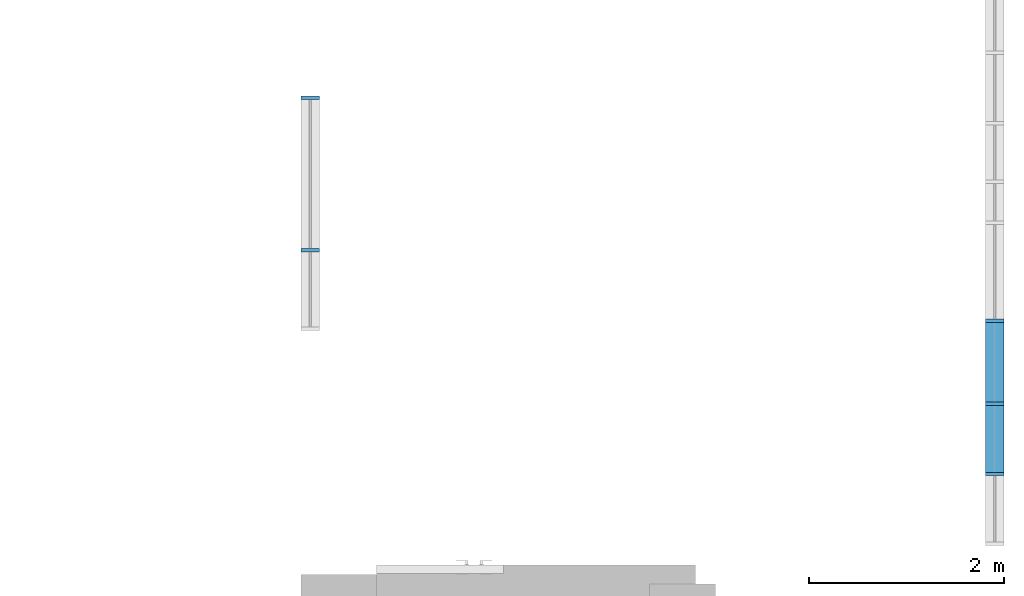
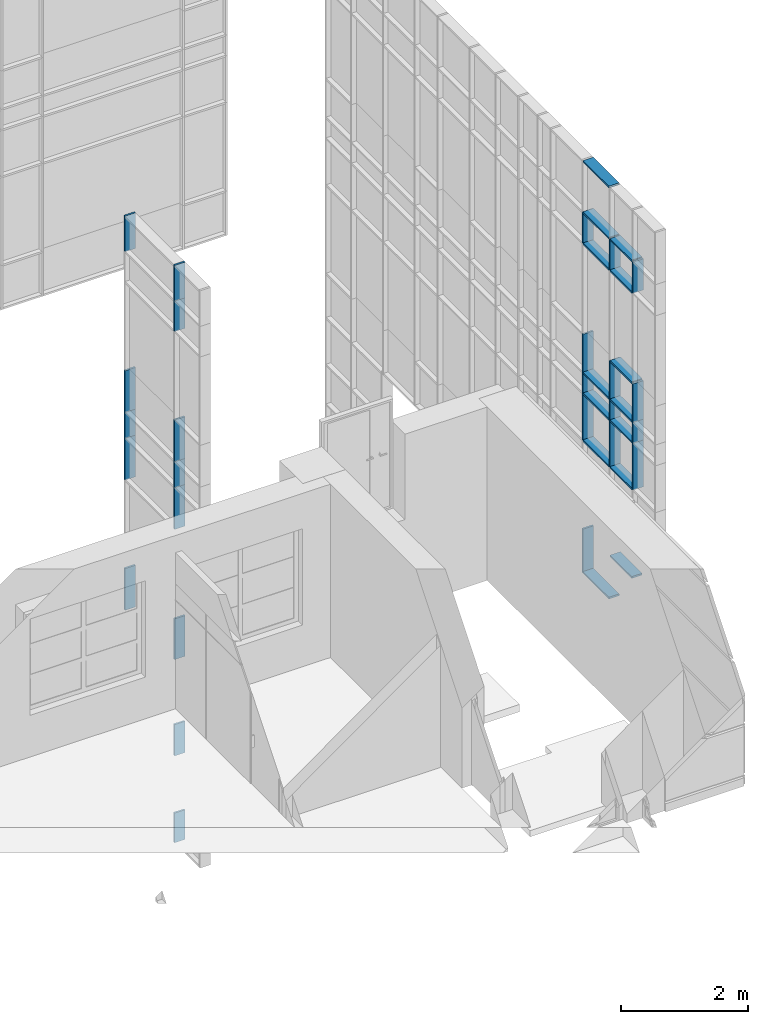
# One storey, part 13 of 73: 40 members, 2 elements without a shape of their own.
"""IFC2X3 building model written with IfcOpenShell, lengths in millimetres."""

from ifc_helpers import new_model, entity, si_unit, converted_unit, derived_unit, direction, frame, origin, origin_2d_with_axis, place, context, subcontext, project, spatial, rectangle, extrude, source, transform, mapped, material, type_object, type_shapes, element, aggregate, save


model = new_model("IFC2X3")

# Units and contexts
model_context = context("Model", 3, precision=0.01, world=origin(), true_north=direction((6.12303176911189e-17, 1.0)))
body_context = subcontext(model_context, "Body", "Model", "MODEL_VIEW")
ifc_project = project(units=[si_unit("LENGTHUNIT", "METRE", prefix="MILLI"), si_unit("AREAUNIT", "SQUARE_METRE"), si_unit("VOLUMEUNIT", "CUBIC_METRE"), converted_unit("PLANEANGLEUNIT", "DEGREE", entity("IfcRatioMeasure", 0.0174532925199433), si_unit("PLANEANGLEUNIT", "RADIAN"), dimensions=[0, 0, 0, 0, 0, 0, 0]), si_unit("MASSUNIT", "GRAM", prefix="KILO"), derived_unit("MASSDENSITYUNIT", [(si_unit("MASSUNIT", "GRAM", prefix="KILO"), 1), (si_unit("LENGTHUNIT", "METRE"), -3)]), si_unit("TIMEUNIT", "SECOND"), si_unit("FREQUENCYUNIT", "HERTZ"), si_unit("THERMODYNAMICTEMPERATUREUNIT", "DEGREE_CELSIUS"), derived_unit("THERMALTRANSMITTANCEUNIT", [(si_unit("MASSUNIT", "GRAM", prefix="KILO"), 1), (si_unit("THERMODYNAMICTEMPERATUREUNIT", "KELVIN"), -1), (si_unit("TIMEUNIT", "SECOND"), -3)]), derived_unit("VOLUMETRICFLOWRATEUNIT", [(si_unit("LENGTHUNIT", "METRE"), 3), (si_unit("TIMEUNIT", "SECOND"), -1)]), si_unit("ELECTRICCURRENTUNIT", "AMPERE"), si_unit("ELECTRICVOLTAGEUNIT", "VOLT"), si_unit("POWERUNIT", "WATT"), si_unit("FORCEUNIT", "NEWTON", prefix="KILO"), si_unit("ILLUMINANCEUNIT", "LUX"), si_unit("LUMINOUSFLUXUNIT", "LUMEN"), si_unit("LUMINOUSINTENSITYUNIT", "CANDELA"), derived_unit("USERDEFINED", [(si_unit("MASSUNIT", "GRAM", prefix="KILO"), -1), (si_unit("LENGTHUNIT", "METRE"), -2), (si_unit("TIMEUNIT", "SECOND"), 3), (si_unit("LUMINOUSFLUXUNIT", "LUMEN"), 1)]), derived_unit("LINEARVELOCITYUNIT", [(si_unit("LENGTHUNIT", "METRE"), 1), (si_unit("TIMEUNIT", "SECOND"), -1)]), si_unit("PRESSUREUNIT", "PASCAL"), derived_unit("USERDEFINED", [(si_unit("LENGTHUNIT", "METRE"), -2), (si_unit("MASSUNIT", "GRAM", prefix="KILO"), 1), (si_unit("TIMEUNIT", "SECOND"), -2)])], contexts=[model_context])

# Site, building, storey
site_placement = place(None, frame((-151.875543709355, 2715.0, 0.0)))
site = spatial("IfcSite", under=ifc_project, at=site_placement, Name="Surface", CompositionType="ELEMENT")
building_placement = place(site_placement, origin())
building = spatial("IfcBuilding", under=site, at=building_placement, CompositionType="ELEMENT")
storey_placement = place(building_placement, frame((0.0, 0.0, 6730.43000000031)))
storey = spatial("IfcBuildingStorey", under=building, at=storey_placement, Name="3 korrus", CompositionType="ELEMENT", Elevation=6730.43000000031)

# Curtain wall, members
curtain_wall_type = type_object("IfcCurtainWallType", Name="Curtain Wall:Klaasfassaad", PredefinedType="NOTDEFINED")
curtain_wall_1_placement = place(storey_placement, frame((0.0, 0.0, -6730.43000000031)))
curtain_wall_1 = element("IfcCurtainWall", 1, at=curtain_wall_1_placement, inside=storey, type_object=curtain_wall_type, Name="Curtain Wall:Klaasfassaad", ObjectType="Curtain Wall:Klaasfassaad")
ifc_material = material(Name="Steel/Aluminium")
member_type_1 = type_object("IfcMemberType", Name="35 x 190mm", PredefinedType="MEMBER")
shared_shape_1 = source(origin(), body_context, "Body", "SweptSolid", [
    extrude(rectangle(XDim=190.0, YDim=35.0, at=origin_2d_with_axis()), frame((-17.5, 0.0, -815.0), z_axis=(0.0, 0.0, 1.0), x_axis=(0.0, -1.0, 0.0)), (0.0, 0.0, 1.0), 814.999999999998),
])
type_shapes(member_type_1, [shared_shape_1])
member_1_placement = place(storey_placement, frame((38701.6162681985, 14878.0004565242, -2856.00226032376), z_axis=(0.0, -1.0, 0.0), x_axis=(0.0, 0.0, -1.0)))
member_1 = element("IfcMember", 2, at=member_1_placement, type_object=member_type_1, material=ifc_material, Name="Rectangular Mullion:35 x 190mm", ObjectType="35 x 190mm", context=body_context, shape_type="MappedRepresentation", body=[
    mapped(shared_shape_1, transform((0.0, 0.0, 0.0), scale=1.0)),
])
member_type_2 = type_object("IfcMemberType", Name="35 x 190mm", PredefinedType="MEMBER")
shared_shape_2 = source(origin(), body_context, "Body", "SweptSolid", [
    extrude(rectangle(XDim=190.0, YDim=35.0, at=origin_2d_with_axis()), frame((-17.5, 0.0, -815.0), z_axis=(0.0, 0.0, 1.0), x_axis=(0.0, -1.0, 0.0)), (0.0, 0.0, 1.0), 814.999999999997),
])
type_shapes(member_type_2, [shared_shape_2])
member_2_placement = place(storey_placement, frame((38701.6162681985, 15693.0004565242, 5074.47692901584), z_axis=(0.0, 1.0, 0.0), x_axis=(0.0, 0.0, 1.0)))
member_2 = element("IfcMember", 3, at=member_2_placement, type_object=member_type_2, material=ifc_material, Name="Rectangular Mullion:35 x 190mm", ObjectType="35 x 190mm", context=body_context, shape_type="MappedRepresentation", body=[
    mapped(shared_shape_2, transform((0.0, 0.0, 0.0), scale=1.0)),
])
member_type_3 = type_object("IfcMemberType", Name="35 x 190mm", PredefinedType="MEMBER")
shared_shape_3 = source(origin(), body_context, "Body", "SweptSolid", [
    extrude(rectangle(XDim=190.0, YDim=35.0, at=origin_2d_with_axis()), frame((0.0, 0.0, -850.159729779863), z_axis=(0.0, 0.0, 1.0), x_axis=(0.0, -1.0, 0.0)), (0.0, 0.0, 1.0), 850.159729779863),
])
type_shapes(member_type_3, [shared_shape_3])
member_3_placement = place(storey_placement, frame((38701.6162681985, 15710.5004565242, -2856.00226032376), z_axis=(0.0, 0.0, -1.0), x_axis=(0.0, 1.0, 0.0)))
member_3 = element("IfcMember", 4, at=member_3_placement, type_object=member_type_3, material=ifc_material, Name="Rectangular Mullion:35 x 190mm", ObjectType="35 x 190mm", context=body_context, shape_type="MappedRepresentation", body=[
    mapped(shared_shape_3, transform((0.0, 0.0, 0.0), scale=1.0)),
])
member_type_4 = type_object("IfcMemberType", Name="35 x 190mm", PredefinedType="MEMBER")
shared_shape_4 = source(origin(), body_context, "Body", "SweptSolid", [
    extrude(rectangle(XDim=190.0, YDim=35.0, at=origin_2d_with_axis()), frame((0.0, 0.0, -685.0), z_axis=(0.0, 0.0, 1.0), x_axis=(0.0, -1.0, 0.0)), (0.0, 0.0, 1.0), 684.999999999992),
])
type_shapes(member_type_4, [shared_shape_4])
member_4_placement = place(storey_placement, frame((38701.6162681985, 14843.0004565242, 4074.47692901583), z_axis=(0.0, 1.0, 0.0), x_axis=(0.0, 0.0, 1.0)))
member_4 = element("IfcMember", 5, at=member_4_placement, type_object=member_type_4, material=ifc_material, Name="Rectangular Mullion:35 x 190mm", ObjectType="35 x 190mm", context=body_context, shape_type="MappedRepresentation", body=[
    mapped(shared_shape_4, transform((0.0, 0.0, 0.0), scale=1.0)),
])
member_type_5 = type_object("IfcMemberType", Name="35 x 190mm", PredefinedType="MEMBER")
shared_shape_5 = source(origin(), body_context, "Body", "SweptSolid", [
    extrude(rectangle(XDim=190.0, YDim=35.0, at=origin_2d_with_axis()), frame((0.0, 0.0, -815.0), z_axis=(0.0, 0.0, 1.0), x_axis=(0.0, -1.0, 0.0)), (0.0, 0.0, 1.0), 814.999999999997),
])
type_shapes(member_type_5, [shared_shape_5])
member_5_placement = place(storey_placement, frame((38701.6162681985, 15693.0004565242, 4074.47692901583), z_axis=(0.0, 1.0, 0.0), x_axis=(0.0, 0.0, 1.0)))
member_5 = element("IfcMember", 6, at=member_5_placement, type_object=member_type_5, material=ifc_material, Name="Rectangular Mullion:35 x 190mm", ObjectType="35 x 190mm", context=body_context, shape_type="MappedRepresentation", body=[
    mapped(shared_shape_5, transform((0.0, 0.0, 0.0), scale=1.0)),
])
member_type_6 = type_object("IfcMemberType", Name="35 x 190mm", PredefinedType="MEMBER")
shared_shape_6 = source(origin(), body_context, "Body", "SweptSolid", [
    extrude(rectangle(XDim=190.0, YDim=35.0, at=origin_2d_with_axis()), frame((0.0, 0.0, -685.0), z_axis=(0.0, 0.0, 1.0), x_axis=(0.0, -1.0, 0.0)), (0.0, 0.0, 1.0), 684.999999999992),
])
type_shapes(member_type_6, [shared_shape_6])
member_6_placement = place(storey_placement, frame((38701.6162681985, 14843.0004565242, 3474.47692901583), z_axis=(0.0, 1.0, 0.0), x_axis=(0.0, 0.0, 1.0)))
member_6 = element("IfcMember", 7, at=member_6_placement, type_object=member_type_6, material=ifc_material, Name="Rectangular Mullion:35 x 190mm", ObjectType="35 x 190mm", context=body_context, shape_type="MappedRepresentation", body=[
    mapped(shared_shape_6, transform((0.0, 0.0, 0.0), scale=1.0)),
])
member_type_7 = type_object("IfcMemberType", Name="35 x 190mm", PredefinedType="MEMBER")
shared_shape_7 = source(origin(), body_context, "Body", "SweptSolid", [
    extrude(rectangle(XDim=190.0, YDim=35.0, at=origin_2d_with_axis()), frame((0.0, 0.0, -815.0), z_axis=(0.0, 0.0, 1.0), x_axis=(0.0, -1.0, 0.0)), (0.0, 0.0, 1.0), 814.999999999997),
])
type_shapes(member_type_7, [shared_shape_7])
member_7_placement = place(storey_placement, frame((38701.6162681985, 15693.0004565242, 3474.47692901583), z_axis=(0.0, 1.0, 0.0), x_axis=(0.0, 0.0, 1.0)))
member_7 = element("IfcMember", 8, at=member_7_placement, type_object=member_type_7, material=ifc_material, Name="Rectangular Mullion:35 x 190mm", ObjectType="35 x 190mm", context=body_context, shape_type="MappedRepresentation", body=[
    mapped(shared_shape_7, transform((0.0, 0.0, 0.0), scale=1.0)),
])
member_type_8 = type_object("IfcMemberType", Name="35 x 190mm", PredefinedType="MEMBER")
shared_shape_8 = source(origin(), body_context, "Body", "SweptSolid", [
    extrude(rectangle(XDim=190.0, YDim=35.0, at=origin_2d_with_axis()), frame((0.0, 0.0, -685.0), z_axis=(0.0, 0.0, 1.0), x_axis=(0.0, -1.0, 0.0)), (0.0, 0.0, 1.0), 684.999999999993),
])
type_shapes(member_type_8, [shared_shape_8])
member_8_placement = place(storey_placement, frame((38701.6162681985, 14843.0004565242, 994.476929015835), z_axis=(0.0, 1.0, 0.0), x_axis=(0.0, 0.0, 1.0)))
member_8 = element("IfcMember", 9, at=member_8_placement, type_object=member_type_8, material=ifc_material, Name="Rectangular Mullion:35 x 190mm", ObjectType="35 x 190mm", context=body_context, shape_type="MappedRepresentation", body=[
    mapped(shared_shape_8, transform((0.0, 0.0, 0.0), scale=1.0)),
])
member_type_9 = type_object("IfcMemberType", Name="35 x 190mm", PredefinedType="MEMBER")
shared_shape_9 = source(origin(), body_context, "Body", "SweptSolid", [
    extrude(rectangle(XDim=190.0, YDim=35.0, at=origin_2d_with_axis()), frame((0.0, 0.0, -815.0), z_axis=(0.0, 0.0, 1.0), x_axis=(0.0, -1.0, 0.0)), (0.0, 0.0, 1.0), 814.999999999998),
])
type_shapes(member_type_9, [shared_shape_9])
member_9_placement = place(storey_placement, frame((38701.6162681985, 15693.0004565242, 994.476929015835), z_axis=(0.0, 1.0, 0.0), x_axis=(0.0, 0.0, 1.0)))
member_9 = element("IfcMember", 10, at=member_9_placement, type_object=member_type_9, material=ifc_material, Name="Rectangular Mullion:35 x 190mm", ObjectType="35 x 190mm", context=body_context, shape_type="MappedRepresentation", body=[
    mapped(shared_shape_9, transform((0.0, 0.0, 0.0), scale=1.0)),
])
member_type_10 = type_object("IfcMemberType", Name="35 x 190mm", PredefinedType="MEMBER")
shared_shape_10 = source(origin(), body_context, "Body", "SweptSolid", [
    extrude(rectangle(XDim=190.0, YDim=35.0, at=origin_2d_with_axis()), frame((0.0, 0.0, -685.0), z_axis=(0.0, 0.0, 1.0), x_axis=(0.0, -1.0, 0.0)), (0.0, 0.0, 1.0), 684.999999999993),
])
type_shapes(member_type_10, [shared_shape_10])
member_10_placement = place(storey_placement, frame((38701.6162681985, 14843.0004565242, 594.476929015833), z_axis=(0.0, 1.0, 0.0), x_axis=(0.0, 0.0, 1.0)))
member_10 = element("IfcMember", 11, at=member_10_placement, type_object=member_type_10, material=ifc_material, Name="Rectangular Mullion:35 x 190mm", ObjectType="35 x 190mm", context=body_context, shape_type="MappedRepresentation", body=[
    mapped(shared_shape_10, transform((0.0, 0.0, 0.0), scale=1.0)),
])
member_type_11 = type_object("IfcMemberType", Name="35 x 190mm", PredefinedType="MEMBER")
shared_shape_11 = source(origin(), body_context, "Body", "SweptSolid", [
    extrude(rectangle(XDim=190.0, YDim=35.0, at=origin_2d_with_axis()), frame((0.0, 0.0, -815.0), z_axis=(0.0, 0.0, 1.0), x_axis=(0.0, -1.0, 0.0)), (0.0, 0.0, 1.0), 814.999999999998),
])
type_shapes(member_type_11, [shared_shape_11])
member_11_placement = place(storey_placement, frame((38701.6162681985, 15693.0004565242, 594.476929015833), z_axis=(0.0, 1.0, 0.0), x_axis=(0.0, 0.0, 1.0)))
member_11 = element("IfcMember", 12, at=member_11_placement, type_object=member_type_11, material=ifc_material, Name="Rectangular Mullion:35 x 190mm", ObjectType="35 x 190mm", context=body_context, shape_type="MappedRepresentation", body=[
    mapped(shared_shape_11, transform((0.0, 0.0, 0.0), scale=1.0)),
])
member_type_12 = type_object("IfcMemberType", Name="35 x 190mm", PredefinedType="MEMBER")
shared_shape_12 = source(origin(), body_context, "Body", "SweptSolid", [
    extrude(rectangle(XDim=190.0, YDim=35.0, at=origin_2d_with_axis()), frame((0.0, 0.0, -685.0), z_axis=(0.0, 0.0, 1.0), x_axis=(0.0, -1.0, 0.0)), (0.0, 0.0, 1.0), 684.999999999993),
])
type_shapes(member_type_12, [shared_shape_12])
member_12_placement = place(storey_placement, frame((38701.6162681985, 14843.0004565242, -305.523070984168), z_axis=(0.0, 1.0, 0.0), x_axis=(0.0, 0.0, 1.0)))
member_12 = element("IfcMember", 13, at=member_12_placement, type_object=member_type_12, material=ifc_material, Name="Rectangular Mullion:35 x 190mm", ObjectType="35 x 190mm", context=body_context, shape_type="MappedRepresentation", body=[
    mapped(shared_shape_12, transform((0.0, 0.0, 0.0), scale=1.0)),
])
member_type_13 = type_object("IfcMemberType", Name="35 x 190mm", PredefinedType="MEMBER")
shared_shape_13 = source(origin(), body_context, "Body", "SweptSolid", [
    extrude(rectangle(XDim=190.0, YDim=35.0, at=origin_2d_with_axis()), frame((0.0, 0.0, -815.0), z_axis=(0.0, 0.0, 1.0), x_axis=(0.0, -1.0, 0.0)), (0.0, 0.0, 1.0), 814.999999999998),
])
type_shapes(member_type_13, [shared_shape_13])
member_13_placement = place(storey_placement, frame((38701.6162681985, 15693.0004565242, -305.523070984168), z_axis=(0.0, 1.0, 0.0), x_axis=(0.0, 0.0, 1.0)))
member_13 = element("IfcMember", 14, at=member_13_placement, type_object=member_type_13, material=ifc_material, Name="Rectangular Mullion:35 x 190mm", ObjectType="35 x 190mm", context=body_context, shape_type="MappedRepresentation", body=[
    mapped(shared_shape_13, transform((0.0, 0.0, 0.0), scale=1.0)),
])
member_type_14 = type_object("IfcMemberType", Name="35 x 190mm", PredefinedType="MEMBER")
shared_shape_14 = source(origin(), body_context, "Body", "SweptSolid", [
    extrude(rectangle(XDim=190.0, YDim=35.0, at=origin_2d_with_axis()), frame((0.0, 0.0, -600.0), z_axis=(0.0, 0.0, 1.0), x_axis=(0.0, -1.0, 0.0)), (0.0, 0.0, 1.0), 599.999999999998),
])
type_shapes(member_type_14, [shared_shape_14])
member_14_placement = place(storey_placement, frame((38701.6162681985, 14140.5004565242, 3474.47692901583), z_axis=(0.0, 0.0, -1.0), x_axis=(0.0, 1.0, 0.0)))
member_14 = element("IfcMember", 15, at=member_14_placement, type_object=member_type_14, material=ifc_material, Name="Rectangular Mullion:35 x 190mm", ObjectType="35 x 190mm", context=body_context, shape_type="MappedRepresentation", body=[
    mapped(shared_shape_14, transform((0.0, 0.0, 0.0), scale=1.0)),
])
member_15_placement = place(storey_placement, frame((38701.6162681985, 14860.5004565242, 3474.47692901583), z_axis=(0.0, 0.0, -1.0), x_axis=(0.0, 1.0, 0.0)))
member_15 = element("IfcMember", 16, at=member_15_placement, type_object=member_type_14, material=ifc_material, Name="Rectangular Mullion:35 x 190mm", ObjectType="35 x 190mm", context=body_context, shape_type="MappedRepresentation", body=[
    mapped(shared_shape_14, transform((0.0, 0.0, 0.0), scale=1.0)),
])
member_16_placement = place(storey_placement, frame((38701.6162681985, 15710.5004565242, 3474.47692901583), z_axis=(0.0, 0.0, -1.0), x_axis=(0.0, 1.0, 0.0)))
member_16 = element("IfcMember", 17, at=member_16_placement, type_object=member_type_14, material=ifc_material, Name="Rectangular Mullion:35 x 190mm", ObjectType="35 x 190mm", context=body_context, shape_type="MappedRepresentation", body=[
    mapped(shared_shape_14, transform((0.0, 0.0, 0.0), scale=1.0)),
])
member_type_15 = type_object("IfcMemberType", Name="35 x 190mm", PredefinedType="MEMBER")
shared_shape_15 = source(origin(), body_context, "Body", "SweptSolid", [
    extrude(rectangle(XDim=190.0, YDim=35.0, at=origin_2d_with_axis()), frame((0.0, 0.0, -740.0), z_axis=(0.0, 0.0, 1.0), x_axis=(0.0, -1.0, 0.0)), (0.0, 0.0, 1.0), 740.000000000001),
])
type_shapes(member_type_15, [shared_shape_15])
member_17_placement = place(storey_placement, frame((38701.6162681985, 14140.5004565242, 994.476929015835), z_axis=(0.0, 0.0, -1.0), x_axis=(0.0, 1.0, 0.0)))
member_17 = element("IfcMember", 18, at=member_17_placement, type_object=member_type_15, material=ifc_material, Name="Rectangular Mullion:35 x 190mm", ObjectType="35 x 190mm", context=body_context, shape_type="MappedRepresentation", body=[
    mapped(shared_shape_15, transform((0.0, 0.0, 0.0), scale=1.0)),
])
member_18_placement = place(storey_placement, frame((38701.6162681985, 14860.5004565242, 994.476929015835), z_axis=(0.0, 0.0, -1.0), x_axis=(0.0, 1.0, 0.0)))
member_18 = element("IfcMember", 19, at=member_18_placement, type_object=member_type_15, material=ifc_material, Name="Rectangular Mullion:35 x 190mm", ObjectType="35 x 190mm", context=body_context, shape_type="MappedRepresentation", body=[
    mapped(shared_shape_15, transform((0.0, 0.0, 0.0), scale=1.0)),
])
member_19_placement = place(storey_placement, frame((38701.6162681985, 15710.5004565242, 994.476929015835), z_axis=(0.0, 0.0, -1.0), x_axis=(0.0, 1.0, 0.0)))
member_19 = element("IfcMember", 20, at=member_19_placement, type_object=member_type_15, material=ifc_material, Name="Rectangular Mullion:35 x 190mm", ObjectType="35 x 190mm", context=body_context, shape_type="MappedRepresentation", body=[
    mapped(shared_shape_15, transform((0.0, 0.0, 0.0), scale=1.0)),
])
member_type_16 = type_object("IfcMemberType", Name="35 x 190mm", PredefinedType="MEMBER")
shared_shape_16 = source(origin(), body_context, "Body", "SweptSolid", [
    extrude(rectangle(XDim=190.0, YDim=35.0, at=origin_2d_with_axis()), frame((0.0, 0.0, -400.0), z_axis=(0.0, 0.0, 1.0), x_axis=(0.0, -1.0, 0.0)), (0.0, 0.0, 1.0), 400.0),
])
type_shapes(member_type_16, [shared_shape_16])
member_20_placement = place(storey_placement, frame((38701.6162681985, 14140.5004565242, 594.476929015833), z_axis=(0.0, 0.0, -1.0), x_axis=(0.0, 1.0, 0.0)))
member_20 = element("IfcMember", 21, at=member_20_placement, type_object=member_type_16, material=ifc_material, Name="Rectangular Mullion:35 x 190mm", ObjectType="35 x 190mm", context=body_context, shape_type="MappedRepresentation", body=[
    mapped(shared_shape_16, transform((0.0, 0.0, 0.0), scale=1.0)),
])
member_21_placement = place(storey_placement, frame((38701.6162681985, 14860.5004565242, 594.476929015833), z_axis=(0.0, 0.0, -1.0), x_axis=(0.0, 1.0, 0.0)))
member_21 = element("IfcMember", 22, at=member_21_placement, type_object=member_type_16, material=ifc_material, Name="Rectangular Mullion:35 x 190mm", ObjectType="35 x 190mm", context=body_context, shape_type="MappedRepresentation", body=[
    mapped(shared_shape_16, transform((0.0, 0.0, 0.0), scale=1.0)),
])
member_22_placement = place(storey_placement, frame((38701.6162681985, 15710.5004565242, 594.476929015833), z_axis=(0.0, 0.0, -1.0), x_axis=(0.0, 1.0, 0.0)))
member_22 = element("IfcMember", 23, at=member_22_placement, type_object=member_type_16, material=ifc_material, Name="Rectangular Mullion:35 x 190mm", ObjectType="35 x 190mm", context=body_context, shape_type="MappedRepresentation", body=[
    mapped(shared_shape_16, transform((0.0, 0.0, 0.0), scale=1.0)),
])
member_type_17 = type_object("IfcMemberType", Name="35 x 190mm", PredefinedType="MEMBER")
shared_shape_17 = source(origin(), body_context, "Body", "SweptSolid", [
    extrude(rectangle(XDim=190.0, YDim=35.0, at=origin_2d_with_axis()), frame((0.0, 0.0, -900.0), z_axis=(0.0, 0.0, 1.0), x_axis=(0.0, -1.0, 0.0)), (0.0, 0.0, 1.0), 900.000000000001),
])
type_shapes(member_type_17, [shared_shape_17])
member_23_placement = place(storey_placement, frame((38701.6162681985, 14140.5004565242, -305.523070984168), z_axis=(0.0, 0.0, -1.0), x_axis=(0.0, 1.0, 0.0)))
member_23 = element("IfcMember", 24, at=member_23_placement, type_object=member_type_17, material=ifc_material, Name="Rectangular Mullion:35 x 190mm", ObjectType="35 x 190mm", context=body_context, shape_type="MappedRepresentation", body=[
    mapped(shared_shape_17, transform((0.0, 0.0, 0.0), scale=1.0)),
])
member_24_placement = place(storey_placement, frame((38701.6162681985, 14860.5004565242, -305.523070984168), z_axis=(0.0, 0.0, -1.0), x_axis=(0.0, 1.0, 0.0)))
member_24 = element("IfcMember", 25, at=member_24_placement, type_object=member_type_17, material=ifc_material, Name="Rectangular Mullion:35 x 190mm", ObjectType="35 x 190mm", context=body_context, shape_type="MappedRepresentation", body=[
    mapped(shared_shape_17, transform((0.0, 0.0, 0.0), scale=1.0)),
])
member_25_placement = place(storey_placement, frame((38701.6162681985, 15710.5004565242, -305.523070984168), z_axis=(0.0, 0.0, -1.0), x_axis=(0.0, 1.0, 0.0)))
member_25 = element("IfcMember", 26, at=member_25_placement, type_object=member_type_17, material=ifc_material, Name="Rectangular Mullion:35 x 190mm", ObjectType="35 x 190mm", context=body_context, shape_type="MappedRepresentation", body=[
    mapped(shared_shape_17, transform((0.0, 0.0, 0.0), scale=1.0)),
])
member_type_18 = type_object("IfcMemberType", Name="35 x 190mm", PredefinedType="MEMBER")
shared_shape_18 = source(origin(), body_context, "Body", "SweptSolid", [
    extrude(rectangle(XDim=190.0, YDim=35.0, at=origin_2d_with_axis()), frame((0.0, 0.0, -685.0), z_axis=(0.0, 0.0, 1.0), x_axis=(0.0, -1.0, 0.0)), (0.0, 0.0, 1.0), 684.999999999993),
])
type_shapes(member_type_18, [shared_shape_18])
member_26_placement = place(storey_placement, frame((38701.6162681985, 14843.0004565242, 1734.47692901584), z_axis=(0.0, 1.0, 0.0), x_axis=(0.0, 0.0, 1.0)))
member_26 = element("IfcMember", 27, at=member_26_placement, type_object=member_type_18, material=ifc_material, Name="Rectangular Mullion:35 x 190mm", ObjectType="35 x 190mm", context=body_context, shape_type="MappedRepresentation", body=[
    mapped(shared_shape_18, transform((0.0, 0.0, 0.0), scale=1.0)),
])
member_type_19 = type_object("IfcMemberType", Name="35 x 190mm", PredefinedType="MEMBER")
shared_shape_19 = source(origin(), body_context, "Body", "SweptSolid", [
    extrude(rectangle(XDim=190.0, YDim=35.0, at=origin_2d_with_axis()), frame((0.0, 0.0, -685.0), z_axis=(0.0, 0.0, 1.0), x_axis=(0.0, -1.0, 0.0)), (0.0, 0.0, 1.0), 684.999999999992),
])
type_shapes(member_type_19, [shared_shape_19])
member_27_placement = place(storey_placement, frame((38701.6162681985, 14843.0004565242, -2005.8425305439), z_axis=(0.0, 1.0, 0.0), x_axis=(0.0, 0.0, 1.0)))
member_27 = element("IfcMember", 28, at=member_27_placement, type_object=member_type_19, material=ifc_material, Name="Rectangular Mullion:35 x 190mm", ObjectType="35 x 190mm", context=body_context, shape_type="MappedRepresentation", body=[
    mapped(shared_shape_19, transform((0.0, 0.0, 0.0), scale=1.0)),
])
aggregate(curtain_wall_1, [member_1, member_2, member_3, member_4, member_5, member_6, member_7, member_8, member_9, member_10, member_11, member_12, member_13, member_14, member_17, member_20, member_23, member_15, member_18, member_21, member_24, member_16, member_19, member_22, member_25, member_26, member_27])

curtain_wall_2_placement = place(storey_placement, frame((0.0, 0.0, -6730.43000000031)))
curtain_wall_2 = element("IfcCurtainWall", 29, at=curtain_wall_2_placement, inside=storey, type_object=curtain_wall_type, Name="Curtain Wall:Klaasfassaad", ObjectType="Curtain Wall:Klaasfassaad")
member_type_20 = type_object("IfcMemberType", Name="35 x 190mm", PredefinedType="MEMBER")
shared_shape_20 = source(origin(), body_context, "Body", "SweptSolid", [
    extrude(rectangle(XDim=190.0, YDim=35.0, at=origin_2d_with_axis()), frame((-17.5, 0.0, -686.182055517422), z_axis=(0.0, 0.0, 1.0), x_axis=(0.0, -1.0, 0.0)), (0.0, 0.0, 1.0), 686.182055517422),
])
type_shapes(member_type_20, [shared_shape_20])
member_28_placement = place(storey_placement, frame((31697.6162682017, 18009.954261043, 5074.47692901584), z_axis=(0.0, 0.0, 1.0), x_axis=(0.0, 1.0, 0.0)))
member_28 = element("IfcMember", 30, at=member_28_placement, type_object=member_type_20, material=ifc_material, Name="Rectangular Mullion:35 x 190mm", ObjectType="35 x 190mm", context=body_context, shape_type="MappedRepresentation", body=[
    mapped(shared_shape_20, transform((0.0, 0.0, 0.0), scale=1.0)),
])
member_type_21 = type_object("IfcMemberType", Name="35 x 190mm", PredefinedType="MEMBER")
shared_shape_21 = source(origin(), body_context, "Body", "SweptSolid", [
    extrude(rectangle(XDim=190.0, YDim=35.0, at=origin_2d_with_axis()), frame((-17.5, 0.0, -800.0), z_axis=(0.0, 0.0, 1.0), x_axis=(0.0, -1.0, 0.0)), (0.0, 0.0, 1.0), 800.0),
])
type_shapes(member_type_21, [shared_shape_21])
member_29_placement = place(storey_placement, frame((31697.6162682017, 18009.954261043, 2103.29487349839), z_axis=(0.0, 0.0, 1.0), x_axis=(0.0, 1.0, 0.0)))
member_29 = element("IfcMember", 31, at=member_29_placement, type_object=member_type_21, material=ifc_material, Name="Rectangular Mullion:35 x 190mm", ObjectType="35 x 190mm", context=body_context, shape_type="MappedRepresentation", body=[
    mapped(shared_shape_21, transform((0.0, 0.0, 0.0), scale=1.0)),
])
member_30_placement = place(storey_placement, frame((31697.6162682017, 18009.954261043, -1696.70512650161), z_axis=(0.0, 0.0, 1.0), x_axis=(0.0, 1.0, 0.0)))
member_30 = element("IfcMember", 32, at=member_30_placement, type_object=member_type_21, material=ifc_material, Name="Rectangular Mullion:35 x 190mm", ObjectType="35 x 190mm", context=body_context, shape_type="MappedRepresentation", body=[
    mapped(shared_shape_21, transform((0.0, 0.0, 0.0), scale=1.0)),
])
member_type_22 = type_object("IfcMemberType", Name="35 x 190mm", PredefinedType="MEMBER")
shared_shape_22 = source(origin(), body_context, "Body", "SweptSolid", [
    extrude(rectangle(XDim=190.0, YDim=35.0, at=origin_2d_with_axis()), frame((-17.5, 0.0, -800.0), z_axis=(0.0, 0.0, 1.0), x_axis=(0.0, -1.0, 0.0)), (0.0, 0.0, 1.0), 800.0),
])
type_shapes(member_type_22, [shared_shape_22])
member_31_placement = place(storey_placement, frame((31697.6162682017, 18009.954261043, 803.294873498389), z_axis=(0.0, 0.0, 1.0), x_axis=(0.0, 1.0, 0.0)))
member_31 = element("IfcMember", 33, at=member_31_placement, type_object=member_type_22, material=ifc_material, Name="Rectangular Mullion:35 x 190mm", ObjectType="35 x 190mm", context=body_context, shape_type="MappedRepresentation", body=[
    mapped(shared_shape_22, transform((0.0, 0.0, 0.0), scale=1.0)),
])
member_type_23 = type_object("IfcMemberType", Name="35 x 190mm", PredefinedType="MEMBER")
shared_shape_23 = source(origin(), body_context, "Body", "SweptSolid", [
    extrude(rectangle(XDim=190.0, YDim=35.0, at=origin_2d_with_axis()), frame((0.0, 0.0, -568.724873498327), z_axis=(0.0, 0.0, 1.0), x_axis=(0.0, -1.0, 0.0)), (0.0, 0.0, 1.0), 568.724873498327),
])
type_shapes(member_type_23, [shared_shape_23])
member_32_placement = place(storey_placement, frame((31697.6162682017, 16429.9542610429, -6015.42999999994), z_axis=(0.0, 0.0, -1.0), x_axis=(0.0, -1.0, 0.0)))
member_32 = element("IfcMember", 34, at=member_32_placement, type_object=member_type_23, material=ifc_material, Name="Rectangular Mullion:35 x 190mm", ObjectType="35 x 190mm", context=body_context, shape_type="MappedRepresentation", body=[
    mapped(shared_shape_23, transform((0.0, 0.0, 0.0), scale=1.0)),
])
member_type_24 = type_object("IfcMemberType", Name="35 x 190mm", PredefinedType="MEMBER")
shared_shape_24 = source(origin(), body_context, "Body", "SweptSolid", [
    extrude(rectangle(XDim=190.0, YDim=35.0, at=origin_2d_with_axis()), frame((0.0, 0.0, -585.0), z_axis=(0.0, 0.0, 1.0), x_axis=(0.0, -1.0, 0.0)), (0.0, 0.0, 1.0), 585.000000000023),
])
type_shapes(member_type_24, [shared_shape_24])
member_33_placement = place(storey_placement, frame((31697.6162682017, 16429.9542610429, 3803.29487349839), z_axis=(0.0, 0.0, -1.0), x_axis=(0.0, -1.0, 0.0)))
member_33 = element("IfcMember", 35, at=member_33_placement, type_object=member_type_24, material=ifc_material, Name="Rectangular Mullion:35 x 190mm", ObjectType="35 x 190mm", context=body_context, shape_type="MappedRepresentation", body=[
    mapped(shared_shape_24, transform((0.0, 0.0, 0.0), scale=1.0)),
])
member_type_25 = type_object("IfcMemberType", Name="35 x 190mm", PredefinedType="MEMBER")
shared_shape_25 = source(origin(), body_context, "Body", "SweptSolid", [
    extrude(rectangle(XDim=190.0, YDim=35.0, at=origin_2d_with_axis()), frame((0.0, 0.0, -500.0), z_axis=(0.0, 0.0, 1.0), x_axis=(0.0, -1.0, 0.0)), (0.0, 0.0, 1.0), 499.999999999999),
])
type_shapes(member_type_25, [shared_shape_25])
member_34_placement = place(storey_placement, frame((31697.6162682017, 16429.9542610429, 803.294873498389), z_axis=(0.0, 0.0, -1.0), x_axis=(0.0, -1.0, 0.0)))
member_34 = element("IfcMember", 36, at=member_34_placement, type_object=member_type_25, material=ifc_material, Name="Rectangular Mullion:35 x 190mm", ObjectType="35 x 190mm", context=body_context, shape_type="MappedRepresentation", body=[
    mapped(shared_shape_25, transform((0.0, 0.0, 0.0), scale=1.0)),
])
member_type_26 = type_object("IfcMemberType", Name="35 x 190mm", PredefinedType="MEMBER")
shared_shape_26 = source(origin(), body_context, "Body", "SweptSolid", [
    extrude(rectangle(XDim=190.0, YDim=35.0, at=origin_2d_with_axis()), frame((0.0, 0.0, -800.0), z_axis=(0.0, 0.0, 1.0), x_axis=(0.0, -1.0, 0.0)), (0.0, 0.0, 1.0), 800.0),
])
type_shapes(member_type_26, [shared_shape_26])
member_35_placement = place(storey_placement, frame((31697.6162682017, 16429.9542610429, 3.29487349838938), z_axis=(0.0, 0.0, -1.0), x_axis=(0.0, -1.0, 0.0)))
member_35 = element("IfcMember", 37, at=member_35_placement, type_object=member_type_26, material=ifc_material, Name="Rectangular Mullion:35 x 190mm", ObjectType="35 x 190mm", context=body_context, shape_type="MappedRepresentation", body=[
    mapped(shared_shape_26, transform((0.0, 0.0, 0.0), scale=1.0)),
])
member_36_placement = place(storey_placement, frame((31697.6162682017, 16429.9542610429, 1303.29487349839), z_axis=(0.0, 0.0, -1.0), x_axis=(0.0, -1.0, 0.0)))
member_36 = element("IfcMember", 38, at=member_36_placement, type_object=member_type_26, material=ifc_material, Name="Rectangular Mullion:35 x 190mm", ObjectType="35 x 190mm", context=body_context, shape_type="MappedRepresentation", body=[
    mapped(shared_shape_26, transform((0.0, 0.0, 0.0), scale=1.0)),
])
member_type_27 = type_object("IfcMemberType", Name="35 x 190mm", PredefinedType="MEMBER")
shared_shape_27 = source(origin(), body_context, "Body", "SweptSolid", [
    extrude(rectangle(XDim=190.0, YDim=35.0, at=origin_2d_with_axis()), frame((0.0, 0.0, -601.749025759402), z_axis=(0.0, 0.0, 1.0), x_axis=(0.0, -1.0, 0.0)), (0.0, 0.0, 1.0), 601.749025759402),
])
type_shapes(member_type_27, [shared_shape_27])
member_37_placement = place(storey_placement, frame((31697.6162682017, 16429.9542610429, -4348.45415226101), z_axis=(0.0, 0.0, -1.0), x_axis=(0.0, -1.0, 0.0)))
member_37 = element("IfcMember", 39, at=member_37_placement, type_object=member_type_27, material=ifc_material, Name="Rectangular Mullion:35 x 190mm", ObjectType="35 x 190mm", context=body_context, shape_type="MappedRepresentation", body=[
    mapped(shared_shape_27, transform((0.0, 0.0, 0.0), scale=1.0)),
])
member_type_28 = type_object("IfcMemberType", Name="35 x 190mm", PredefinedType="MEMBER")
shared_shape_28 = source(origin(), body_context, "Body", "SweptSolid", [
    extrude(rectangle(XDim=190.0, YDim=35.0, at=origin_2d_with_axis()), frame((-17.5, 0.0, -500.0), z_axis=(0.0, 0.0, 1.0), x_axis=(0.0, -1.0, 0.0)), (0.0, 0.0, 1.0), 499.999999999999),
])
type_shapes(member_type_28, [shared_shape_28])
member_38_placement = place(storey_placement, frame((31697.6162682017, 18009.954261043, 1303.29487349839), z_axis=(0.0, 0.0, 1.0), x_axis=(0.0, 1.0, 0.0)))
member_38 = element("IfcMember", 40, at=member_38_placement, type_object=member_type_28, material=ifc_material, Name="Rectangular Mullion:35 x 190mm", ObjectType="35 x 190mm", context=body_context, shape_type="MappedRepresentation", body=[
    mapped(shared_shape_28, transform((0.0, 0.0, 0.0), scale=1.0)),
])
member_type_29 = type_object("IfcMemberType", Name="35 x 190mm", PredefinedType="MEMBER")
shared_shape_29 = source(origin(), body_context, "Body", "SweptSolid", [
    extrude(rectangle(XDim=190.0, YDim=35.0, at=origin_2d_with_axis()), frame((0.0, 0.0, -782.5), z_axis=(0.0, 0.0, 1.0), x_axis=(0.0, -1.0, 0.0)), (0.0, 0.0, 1.0), 782.5),
])
type_shapes(member_type_29, [shared_shape_29])
member_39_placement = place(storey_placement, frame((31697.6162682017, 16429.9542610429, -2496.70512650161), z_axis=(0.0, 0.0, -1.0), x_axis=(0.0, -1.0, 0.0)))
member_39 = element("IfcMember", 41, at=member_39_placement, type_object=member_type_29, material=ifc_material, Name="Rectangular Mullion:35 x 190mm", ObjectType="35 x 190mm", context=body_context, shape_type="MappedRepresentation", body=[
    mapped(shared_shape_29, transform((0.0, 0.0, 0.0), scale=1.0)),
])
member_type_30 = type_object("IfcMemberType", Name="35 x 190mm", PredefinedType="MEMBER")
shared_shape_30 = source(origin(), body_context, "Body", "SweptSolid", [
    extrude(rectangle(XDim=190.0, YDim=35.0, at=origin_2d_with_axis()), frame((0.0, 0.0, -686.182055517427), z_axis=(0.0, 0.0, 1.0), x_axis=(0.0, -1.0, 0.0)), (0.0, 0.0, 1.0), 686.182055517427),
])
type_shapes(member_type_30, [shared_shape_30])
member_40_placement = place(storey_placement, frame((31697.6162682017, 16429.9542610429, 4388.29487349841), z_axis=(0.0, 0.0, -1.0), x_axis=(0.0, -1.0, 0.0)))
member_40 = element("IfcMember", 42, at=member_40_placement, type_object=member_type_30, material=ifc_material, Name="Rectangular Mullion:35 x 190mm", ObjectType="35 x 190mm", context=body_context, shape_type="MappedRepresentation", body=[
    mapped(shared_shape_30, transform((0.0, 0.0, 0.0), scale=1.0)),
])
aggregate(curtain_wall_2, [member_28, member_29, member_31, member_30, member_32, member_33, member_34, member_35, member_37, member_38, member_36, member_39, member_40])

save(model, "model.ifc")
